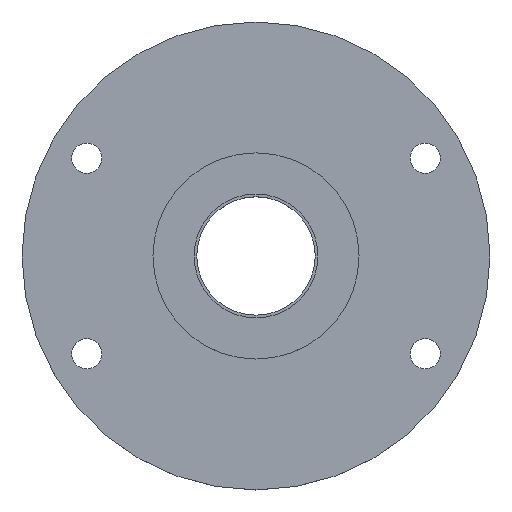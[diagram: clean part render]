
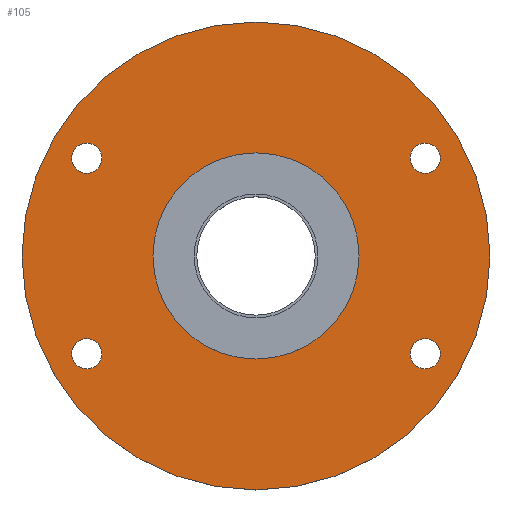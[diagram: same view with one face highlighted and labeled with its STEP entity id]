
A CAD part, top view. The second image highlights one B-rep face of the part: STEP entity #105.
In plain terms, the highlighted planar face has unit normal (0, 0, 1).
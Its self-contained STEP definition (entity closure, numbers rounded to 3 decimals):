
#21 = EDGE_CURVE('',#22,#22,#24,.T.);
#22 = VERTEX_POINT('',#23);
#23 = CARTESIAN_POINT('',(17.,0.,1.5));
#24 = SURFACE_CURVE('',#25,(#30,#42),.PCURVE_S1.);
#25 = CIRCLE('',#26,17.);
#26 = AXIS2_PLACEMENT_3D('',#27,#28,#29);
#27 = CARTESIAN_POINT('',(0.,0.,1.5));
#28 = DIRECTION('',(0.,0.,1.));
#29 = DIRECTION('',(1.,0.,-0.));
#30 = PCURVE('',#31,#36);
#31 = CYLINDRICAL_SURFACE('',#32,17.);
#32 = AXIS2_PLACEMENT_3D('',#33,#34,#35);
#33 = CARTESIAN_POINT('',(0.,0.,0.));
#34 = DIRECTION('',(0.,0.,1.));
#35 = DIRECTION('',(1.,0.,-0.));
#36 = DEFINITIONAL_REPRESENTATION('',(#37),#41);
#37 = LINE('',#38,#39);
#38 = CARTESIAN_POINT('',(0.,1.5));
#39 = VECTOR('',#40,1.);
#40 = DIRECTION('',(1.,0.));
#41 = ( GEOMETRIC_REPRESENTATION_CONTEXT(2) 
PARAMETRIC_REPRESENTATION_CONTEXT() REPRESENTATION_CONTEXT('2D SPACE',''
  ) );
#42 = PCURVE('',#43,#48);
#43 = PLANE('',#44);
#44 = AXIS2_PLACEMENT_3D('',#45,#46,#47);
#45 = CARTESIAN_POINT('',(0.,0.,1.5));
#46 = DIRECTION('',(0.,0.,1.));
#47 = DIRECTION('',(1.,0.,-0.));
#48 = DEFINITIONAL_REPRESENTATION('',(#49),#53);
#49 = CIRCLE('',#50,17.);
#50 = AXIS2_PLACEMENT_2D('',#51,#52);
#51 = CARTESIAN_POINT('',(0.,0.));
#52 = DIRECTION('',(1.,0.));
#53 = ( GEOMETRIC_REPRESENTATION_CONTEXT(2) 
PARAMETRIC_REPRESENTATION_CONTEXT() REPRESENTATION_CONTEXT('2D SPACE',''
  ) );
#105 = ADVANCED_FACE('',(#106,#109,#140,#171,#202,#233),#43,.T.);
#106 = FACE_BOUND('',#107,.T.);
#107 = EDGE_LOOP('',(#108));
#108 = ORIENTED_EDGE('',*,*,#21,.T.);
#109 = FACE_BOUND('',#110,.T.);
#110 = EDGE_LOOP('',(#111));
#111 = ORIENTED_EDGE('',*,*,#112,.F.);
#112 = EDGE_CURVE('',#113,#113,#115,.T.);
#113 = VERTEX_POINT('',#114);
#114 = CARTESIAN_POINT('',(-11.2,-7.1,1.5));
#115 = SURFACE_CURVE('',#116,(#121,#128),.PCURVE_S1.);
#116 = CIRCLE('',#117,1.1);
#117 = AXIS2_PLACEMENT_3D('',#118,#119,#120);
#118 = CARTESIAN_POINT('',(-12.3,-7.1,1.5));
#119 = DIRECTION('',(0.,0.,1.));
#120 = DIRECTION('',(1.,0.,-0.));
#121 = PCURVE('',#43,#122);
#122 = DEFINITIONAL_REPRESENTATION('',(#123),#127);
#123 = CIRCLE('',#124,1.1);
#124 = AXIS2_PLACEMENT_2D('',#125,#126);
#125 = CARTESIAN_POINT('',(-12.3,-7.1));
#126 = DIRECTION('',(1.,0.));
#127 = ( GEOMETRIC_REPRESENTATION_CONTEXT(2) 
PARAMETRIC_REPRESENTATION_CONTEXT() REPRESENTATION_CONTEXT('2D SPACE',''
  ) );
#128 = PCURVE('',#129,#134);
#129 = CYLINDRICAL_SURFACE('',#130,1.1);
#130 = AXIS2_PLACEMENT_3D('',#131,#132,#133);
#131 = CARTESIAN_POINT('',(-12.3,-7.1,-0.01));
#132 = DIRECTION('',(0.,0.,1.));
#133 = DIRECTION('',(1.,0.,-0.));
#134 = DEFINITIONAL_REPRESENTATION('',(#135),#139);
#135 = LINE('',#136,#137);
#136 = CARTESIAN_POINT('',(0.,1.51));
#137 = VECTOR('',#138,1.);
#138 = DIRECTION('',(1.,0.));
#139 = ( GEOMETRIC_REPRESENTATION_CONTEXT(2) 
PARAMETRIC_REPRESENTATION_CONTEXT() REPRESENTATION_CONTEXT('2D SPACE',''
  ) );
#140 = FACE_BOUND('',#141,.T.);
#141 = EDGE_LOOP('',(#142));
#142 = ORIENTED_EDGE('',*,*,#143,.F.);
#143 = EDGE_CURVE('',#144,#144,#146,.T.);
#144 = VERTEX_POINT('',#145);
#145 = CARTESIAN_POINT('',(13.4,-7.1,1.5));
#146 = SURFACE_CURVE('',#147,(#152,#159),.PCURVE_S1.);
#147 = CIRCLE('',#148,1.1);
#148 = AXIS2_PLACEMENT_3D('',#149,#150,#151);
#149 = CARTESIAN_POINT('',(12.3,-7.1,1.5));
#150 = DIRECTION('',(0.,0.,1.));
#151 = DIRECTION('',(1.,0.,-0.));
#152 = PCURVE('',#43,#153);
#153 = DEFINITIONAL_REPRESENTATION('',(#154),#158);
#154 = CIRCLE('',#155,1.1);
#155 = AXIS2_PLACEMENT_2D('',#156,#157);
#156 = CARTESIAN_POINT('',(12.3,-7.1));
#157 = DIRECTION('',(1.,0.));
#158 = ( GEOMETRIC_REPRESENTATION_CONTEXT(2) 
PARAMETRIC_REPRESENTATION_CONTEXT() REPRESENTATION_CONTEXT('2D SPACE',''
  ) );
#159 = PCURVE('',#160,#165);
#160 = CYLINDRICAL_SURFACE('',#161,1.1);
#161 = AXIS2_PLACEMENT_3D('',#162,#163,#164);
#162 = CARTESIAN_POINT('',(12.3,-7.1,-0.01));
#163 = DIRECTION('',(0.,0.,1.));
#164 = DIRECTION('',(1.,0.,-0.));
#165 = DEFINITIONAL_REPRESENTATION('',(#166),#170);
#166 = LINE('',#167,#168);
#167 = CARTESIAN_POINT('',(0.,1.51));
#168 = VECTOR('',#169,1.);
#169 = DIRECTION('',(1.,0.));
#170 = ( GEOMETRIC_REPRESENTATION_CONTEXT(2) 
PARAMETRIC_REPRESENTATION_CONTEXT() REPRESENTATION_CONTEXT('2D SPACE',''
  ) );
#171 = FACE_BOUND('',#172,.T.);
#172 = EDGE_LOOP('',(#173));
#173 = ORIENTED_EDGE('',*,*,#174,.F.);
#174 = EDGE_CURVE('',#175,#175,#177,.T.);
#175 = VERTEX_POINT('',#176);
#176 = CARTESIAN_POINT('',(7.49,0.,1.5));
#177 = SURFACE_CURVE('',#178,(#183,#190),.PCURVE_S1.);
#178 = CIRCLE('',#179,7.49);
#179 = AXIS2_PLACEMENT_3D('',#180,#181,#182);
#180 = CARTESIAN_POINT('',(0.,0.,1.5));
#181 = DIRECTION('',(0.,0.,1.));
#182 = DIRECTION('',(1.,0.,-0.));
#183 = PCURVE('',#43,#184);
#184 = DEFINITIONAL_REPRESENTATION('',(#185),#189);
#185 = CIRCLE('',#186,7.49);
#186 = AXIS2_PLACEMENT_2D('',#187,#188);
#187 = CARTESIAN_POINT('',(0.,0.));
#188 = DIRECTION('',(1.,0.));
#189 = ( GEOMETRIC_REPRESENTATION_CONTEXT(2) 
PARAMETRIC_REPRESENTATION_CONTEXT() REPRESENTATION_CONTEXT('2D SPACE',''
  ) );
#190 = PCURVE('',#191,#196);
#191 = CYLINDRICAL_SURFACE('',#192,7.49);
#192 = AXIS2_PLACEMENT_3D('',#193,#194,#195);
#193 = CARTESIAN_POINT('',(0.,0.,1.5));
#194 = DIRECTION('',(0.,0.,1.));
#195 = DIRECTION('',(1.,0.,-0.));
#196 = DEFINITIONAL_REPRESENTATION('',(#197),#201);
#197 = LINE('',#198,#199);
#198 = CARTESIAN_POINT('',(0.,0.));
#199 = VECTOR('',#200,1.);
#200 = DIRECTION('',(1.,0.));
#201 = ( GEOMETRIC_REPRESENTATION_CONTEXT(2) 
PARAMETRIC_REPRESENTATION_CONTEXT() REPRESENTATION_CONTEXT('2D SPACE',''
  ) );
#202 = FACE_BOUND('',#203,.T.);
#203 = EDGE_LOOP('',(#204));
#204 = ORIENTED_EDGE('',*,*,#205,.F.);
#205 = EDGE_CURVE('',#206,#206,#208,.T.);
#206 = VERTEX_POINT('',#207);
#207 = CARTESIAN_POINT('',(-11.2,7.1,1.5));
#208 = SURFACE_CURVE('',#209,(#214,#221),.PCURVE_S1.);
#209 = CIRCLE('',#210,1.1);
#210 = AXIS2_PLACEMENT_3D('',#211,#212,#213);
#211 = CARTESIAN_POINT('',(-12.3,7.1,1.5));
#212 = DIRECTION('',(0.,0.,1.));
#213 = DIRECTION('',(1.,0.,-0.));
#214 = PCURVE('',#43,#215);
#215 = DEFINITIONAL_REPRESENTATION('',(#216),#220);
#216 = CIRCLE('',#217,1.1);
#217 = AXIS2_PLACEMENT_2D('',#218,#219);
#218 = CARTESIAN_POINT('',(-12.3,7.1));
#219 = DIRECTION('',(1.,0.));
#220 = ( GEOMETRIC_REPRESENTATION_CONTEXT(2) 
PARAMETRIC_REPRESENTATION_CONTEXT() REPRESENTATION_CONTEXT('2D SPACE',''
  ) );
#221 = PCURVE('',#222,#227);
#222 = CYLINDRICAL_SURFACE('',#223,1.1);
#223 = AXIS2_PLACEMENT_3D('',#224,#225,#226);
#224 = CARTESIAN_POINT('',(-12.3,7.1,-0.01));
#225 = DIRECTION('',(0.,0.,1.));
#226 = DIRECTION('',(1.,0.,-0.));
#227 = DEFINITIONAL_REPRESENTATION('',(#228),#232);
#228 = LINE('',#229,#230);
#229 = CARTESIAN_POINT('',(0.,1.51));
#230 = VECTOR('',#231,1.);
#231 = DIRECTION('',(1.,0.));
#232 = ( GEOMETRIC_REPRESENTATION_CONTEXT(2) 
PARAMETRIC_REPRESENTATION_CONTEXT() REPRESENTATION_CONTEXT('2D SPACE',''
  ) );
#233 = FACE_BOUND('',#234,.T.);
#234 = EDGE_LOOP('',(#235));
#235 = ORIENTED_EDGE('',*,*,#236,.F.);
#236 = EDGE_CURVE('',#237,#237,#239,.T.);
#237 = VERTEX_POINT('',#238);
#238 = CARTESIAN_POINT('',(13.4,7.1,1.5));
#239 = SURFACE_CURVE('',#240,(#245,#252),.PCURVE_S1.);
#240 = CIRCLE('',#241,1.1);
#241 = AXIS2_PLACEMENT_3D('',#242,#243,#244);
#242 = CARTESIAN_POINT('',(12.3,7.1,1.5));
#243 = DIRECTION('',(0.,0.,1.));
#244 = DIRECTION('',(1.,0.,-0.));
#245 = PCURVE('',#43,#246);
#246 = DEFINITIONAL_REPRESENTATION('',(#247),#251);
#247 = CIRCLE('',#248,1.1);
#248 = AXIS2_PLACEMENT_2D('',#249,#250);
#249 = CARTESIAN_POINT('',(12.3,7.1));
#250 = DIRECTION('',(1.,0.));
#251 = ( GEOMETRIC_REPRESENTATION_CONTEXT(2) 
PARAMETRIC_REPRESENTATION_CONTEXT() REPRESENTATION_CONTEXT('2D SPACE',''
  ) );
#252 = PCURVE('',#253,#258);
#253 = CYLINDRICAL_SURFACE('',#254,1.1);
#254 = AXIS2_PLACEMENT_3D('',#255,#256,#257);
#255 = CARTESIAN_POINT('',(12.3,7.1,-0.01));
#256 = DIRECTION('',(0.,0.,1.));
#257 = DIRECTION('',(1.,0.,-0.));
#258 = DEFINITIONAL_REPRESENTATION('',(#259),#263);
#259 = LINE('',#260,#261);
#260 = CARTESIAN_POINT('',(0.,1.51));
#261 = VECTOR('',#262,1.);
#262 = DIRECTION('',(1.,0.));
#263 = ( GEOMETRIC_REPRESENTATION_CONTEXT(2) 
PARAMETRIC_REPRESENTATION_CONTEXT() REPRESENTATION_CONTEXT('2D SPACE',''
  ) );
